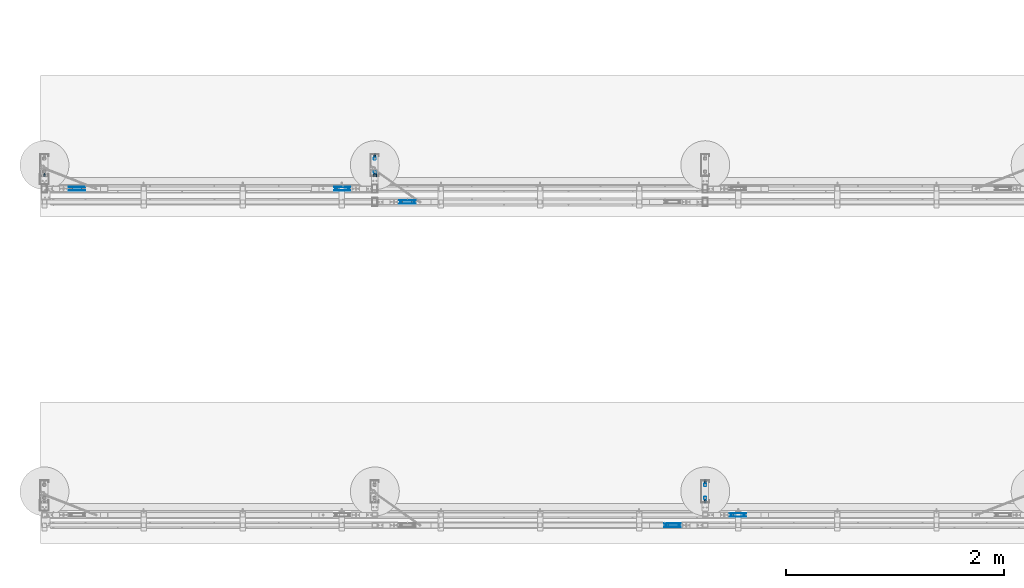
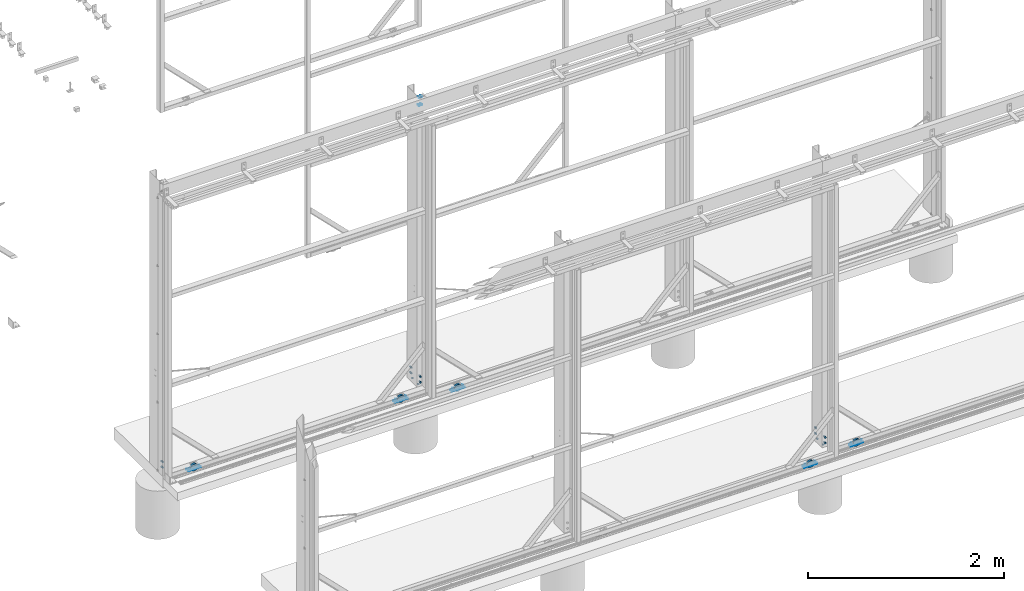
# One storey, part 18 of 91: 15 discrete accessories, 12 mechanical fasteners, 11 elements without a shape of their own.
"""IFC2X3 building model written with IfcOpenShell, lengths in millimetres."""

from ifc_helpers import new_model, si_unit, frame, frame_2d, origin_with_axes, origin_2d_with_axis, place, context, subcontext, project, spatial, polyline, circle_curve, parameter, trimmed, segment, composite_curve, circle, outline, extrude, source, transform, mapped, material, type_object, element, aggregate, save


model = new_model("IFC2X3")

# Units and contexts
model_context = context("Model", 3, precision=1e-05, world=origin_with_axes())
body_context = subcontext(model_context, "Body", "Model", "MODEL_VIEW")
ifc_project = project(units=[si_unit("LENGTHUNIT", "METRE", prefix="MILLI"), si_unit("AREAUNIT", "SQUARE_METRE"), si_unit("VOLUMEUNIT", "CUBIC_METRE"), si_unit("MASSUNIT", "GRAM", prefix="KILO"), si_unit("TIMEUNIT", "SECOND"), si_unit("PLANEANGLEUNIT", "RADIAN"), si_unit("SOLIDANGLEUNIT", "STERADIAN"), si_unit("THERMODYNAMICTEMPERATUREUNIT", "DEGREE_CELSIUS"), si_unit("LUMINOUSINTENSITYUNIT", "LUMEN")], contexts=[model_context])

# Site, building, storey
site_placement = place(None, origin_with_axes())
site = spatial("IfcSite", under=ifc_project, at=site_placement, Name="Undefined", CompositionType="ELEMENT")
building_placement = place(site_placement, origin_with_axes())
building = spatial("IfcBuilding", under=site, at=building_placement, Name="Undefined", CompositionType="ELEMENT")
storey_placement = place(building_placement, origin_with_axes())
storey = spatial("IfcBuildingStorey", under=building, at=storey_placement, Name="Undefined", CompositionType="ELEMENT", Elevation=0.0)

# Assembly, discrete accessories
assembly_1_placement = place(storey_placement, origin_with_axes())
assembly_1 = element("IfcElementAssembly", 1, at=assembly_1_placement, inside=storey, Name="PLATE", AssemblyPlace="NOTDEFINED", PredefinedType="RIGID_FRAME")
ifc_material_1 = material(Name="STEEL/250")
discrete_accessory_type_1 = type_object("IfcDiscreteAccessoryType", Name="PLATE")
discrete_accessory_1_placement = place(assembly_1_placement, frame((-113533.34, 87574.65, -19.0), z_axis=(0.0, -1.0, 0.0), x_axis=(0.0, 0.0, -1.0)))
discrete_accessory_1 = element("IfcDiscreteAccessory", 2, at=discrete_accessory_1_placement, type_object=discrete_accessory_type_1, material=ifc_material_1, Name="PLATE", ObjectType="PLT2*10", context=body_context, shape_type="SweptSolid", body=[
    extrude(outline(polyline([(0.0, 0.0), (10.0, 0.0), (10.0, 150.0), (0.0, 150.0), (0.0, 0.0)])), frame((0.0, 0.0, -1.0), z_axis=(0.0, 0.0, 1.0), x_axis=(1.0, 0.0, 0.0)), (0.0, 0.0, 1.0), 2.0),
])
discrete_accessory_2_placement = place(assembly_1_placement, frame((-113533.34, 87605.65, -19.0), z_axis=(0.0, -1.0, 0.0), x_axis=(0.0, 0.0, -1.0)))
discrete_accessory_2 = element("IfcDiscreteAccessory", 3, at=discrete_accessory_2_placement, type_object=discrete_accessory_type_1, material=ifc_material_1, Name="PLATE", ObjectType="PLT2*10", context=body_context, shape_type="SweptSolid", body=[
    extrude(outline(polyline([(0.0, 0.0), (10.0, 0.0), (10.0, 150.0), (0.0, 150.0), (0.0, 0.0)])), frame((0.0, 0.0, -1.0), z_axis=(0.0, 0.0, 1.0), x_axis=(1.0, 0.0, 0.0)), (0.0, 0.0, 1.0), 2.0),
])

assembly_2_placement = place(storey_placement, origin_with_axes())
assembly_2 = element("IfcElementAssembly", 4, at=assembly_2_placement, inside=storey, Name="PLATE", AssemblyPlace="NOTDEFINED", PredefinedType="RIGID_FRAME")
discrete_accessory_3_placement = place(assembly_2_placement, frame((-114133.34, 87696.65, -19.0), z_axis=(0.0, -1.0, 0.0), x_axis=(0.0, 0.0, -1.0)))
discrete_accessory_3 = element("IfcDiscreteAccessory", 5, at=discrete_accessory_3_placement, type_object=discrete_accessory_type_1, material=ifc_material_1, Name="PLATE", ObjectType="PLT2*10", context=body_context, shape_type="SweptSolid", body=[
    extrude(outline(polyline([(0.0, 0.0), (10.0, 0.0), (10.0, 150.0), (0.0, 150.0), (0.0, 0.0)])), frame((0.0, 0.0, -1.0), z_axis=(0.0, 0.0, 1.0), x_axis=(1.0, 0.0, 0.0)), (0.0, 0.0, 1.0), 2.0),
])
discrete_accessory_4_placement = place(assembly_2_placement, frame((-114133.34, 87727.65, -19.0), z_axis=(0.0, -1.0, 0.0), x_axis=(0.0, 0.0, -1.0)))
discrete_accessory_4 = element("IfcDiscreteAccessory", 6, at=discrete_accessory_4_placement, type_object=discrete_accessory_type_1, material=ifc_material_1, Name="PLATE", ObjectType="PLT2*10", context=body_context, shape_type="SweptSolid", body=[
    extrude(outline(polyline([(0.0, 0.0), (10.0, 0.0), (10.0, 150.0), (0.0, 150.0), (0.0, 0.0)])), frame((0.0, 0.0, -1.0), z_axis=(0.0, 0.0, 1.0), x_axis=(1.0, 0.0, 0.0)), (0.0, 0.0, 1.0), 2.0),
])

assembly_3_placement = place(storey_placement, origin_with_axes())
assembly_3 = element("IfcElementAssembly", 7, at=assembly_3_placement, inside=storey, Name="PLATE", AssemblyPlace="NOTDEFINED", PredefinedType="RIGID_FRAME")
discrete_accessory_5_placement = place(assembly_3_placement, frame((-116570.84, 87696.65, -19.0), z_axis=(0.0, -1.0, 0.0), x_axis=(0.0, 0.0, -1.0)))
discrete_accessory_5 = element("IfcDiscreteAccessory", 8, at=discrete_accessory_5_placement, type_object=discrete_accessory_type_1, material=ifc_material_1, Name="PLATE", ObjectType="PLT2*10", context=body_context, shape_type="SweptSolid", body=[
    extrude(outline(polyline([(0.0, 0.0), (10.0, 0.0), (10.0, 150.0), (0.0, 150.0), (0.0, 0.0)])), frame((0.0, 0.0, -1.0), z_axis=(0.0, 0.0, 1.0), x_axis=(1.0, 0.0, 0.0)), (0.0, 0.0, 1.0), 2.0),
])
discrete_accessory_6_placement = place(assembly_3_placement, frame((-116570.84, 87727.65, -19.0), z_axis=(0.0, -1.0, 0.0), x_axis=(0.0, 0.0, -1.0)))
discrete_accessory_6 = element("IfcDiscreteAccessory", 9, at=discrete_accessory_6_placement, type_object=discrete_accessory_type_1, material=ifc_material_1, Name="PLATE", ObjectType="PLT2*10", context=body_context, shape_type="SweptSolid", body=[
    extrude(outline(polyline([(0.0, 0.0), (10.0, 0.0), (10.0, 150.0), (0.0, 150.0), (0.0, 0.0)])), frame((0.0, 0.0, -1.0), z_axis=(0.0, 0.0, 1.0), x_axis=(1.0, 0.0, 0.0)), (0.0, 0.0, 1.0), 2.0),
])

assembly_4_placement = place(storey_placement, origin_with_axes())
assembly_4 = element("IfcElementAssembly", 10, at=assembly_4_placement, inside=storey, Name="PLATE", AssemblyPlace="NOTDEFINED", PredefinedType="RIGID_FRAME")
discrete_accessory_7_placement = place(assembly_4_placement, frame((-110495.84, 84696.65, -19.0), z_axis=(0.0, -1.0, 0.0), x_axis=(0.0, 0.0, -1.0)))
discrete_accessory_7 = element("IfcDiscreteAccessory", 11, at=discrete_accessory_7_placement, type_object=discrete_accessory_type_1, material=ifc_material_1, Name="PLATE", ObjectType="PLT2*10", context=body_context, shape_type="SweptSolid", body=[
    extrude(outline(polyline([(0.0, 0.0), (10.0, 0.0), (10.0, 150.0), (0.0, 150.0), (0.0, 0.0)])), frame((0.0, 0.0, -1.0), z_axis=(0.0, 0.0, 1.0), x_axis=(1.0, 0.0, 0.0)), (0.0, 0.0, 1.0), 2.0),
])
discrete_accessory_8_placement = place(assembly_4_placement, frame((-110495.84, 84727.65, -19.0), z_axis=(0.0, -1.0, 0.0), x_axis=(0.0, 0.0, -1.0)))
discrete_accessory_8 = element("IfcDiscreteAccessory", 12, at=discrete_accessory_8_placement, type_object=discrete_accessory_type_1, material=ifc_material_1, Name="PLATE", ObjectType="PLT2*10", context=body_context, shape_type="SweptSolid", body=[
    extrude(outline(polyline([(0.0, 0.0), (10.0, 0.0), (10.0, 150.0), (0.0, 150.0), (0.0, 0.0)])), frame((0.0, 0.0, -1.0), z_axis=(0.0, 0.0, 1.0), x_axis=(1.0, 0.0, 0.0)), (0.0, 0.0, 1.0), 2.0),
])

assembly_5_placement = place(storey_placement, origin_with_axes())
assembly_5 = element("IfcElementAssembly", 13, at=assembly_5_placement, inside=storey, Name="PLATE", AssemblyPlace="NOTDEFINED", PredefinedType="RIGID_FRAME")
discrete_accessory_9_placement = place(assembly_5_placement, frame((-111095.84, 84602.65, -19.0), z_axis=(0.0, -1.0, 0.0), x_axis=(0.0, 0.0, -1.0)))
discrete_accessory_9 = element("IfcDiscreteAccessory", 14, at=discrete_accessory_9_placement, type_object=discrete_accessory_type_1, material=ifc_material_1, Name="PLATE", ObjectType="PLT2*10", context=body_context, shape_type="SweptSolid", body=[
    extrude(outline(polyline([(0.0, 0.0), (10.0, 0.0), (10.0, 150.0), (0.0, 150.0), (0.0, 0.0)])), frame((0.0, 0.0, -1.0), z_axis=(0.0, 0.0, 1.0), x_axis=(1.0, 0.0, 0.0)), (0.0, 0.0, 1.0), 2.0),
])
discrete_accessory_10_placement = place(assembly_5_placement, frame((-111095.84, 84633.65, -19.0), z_axis=(0.0, -1.0, 0.0), x_axis=(0.0, 0.0, -1.0)))
discrete_accessory_10 = element("IfcDiscreteAccessory", 15, at=discrete_accessory_10_placement, type_object=discrete_accessory_type_1, material=ifc_material_1, Name="PLATE", ObjectType="PLT2*10", context=body_context, shape_type="SweptSolid", body=[
    extrude(outline(polyline([(0.0, 0.0), (10.0, 0.0), (10.0, 150.0), (0.0, 150.0), (0.0, 0.0)])), frame((0.0, 0.0, -1.0), z_axis=(0.0, 0.0, 1.0), x_axis=(1.0, 0.0, 0.0)), (0.0, 0.0, 1.0), 2.0),
])

# Mechanical fastener
ifc_material_2 = material(Name="TEK_11TPIM")
discrete_accessory_type_2 = type_object("IfcDiscreteAccessoryType", Name="Bolt assembly")
shared_shape_1 = source(origin_with_axes(), body_context, "Body", "SweptSolid", [
    extrude(circle(Radius=3.0, at=origin_2d_with_axis()), frame((0.0, 0.0, 0.0), z_axis=(0.0, 1.0, 0.0), x_axis=(1.0, 0.0, 0.0)), (0.0, 0.0, 1.0), 2.1),
    extrude(outline(polyline([(4.61880215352, 0.0), (2.30940107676, 4.00000000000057), (-2.30940107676, 4.00000000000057), (-4.61880215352, 0.0), (-2.30940107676, -4.00000000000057), (2.30940107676, -4.00000000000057), (4.61880215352, 0.0)])), frame((0.0, -5.10000000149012, 0.0), z_axis=(0.0, 1.0, 0.0), x_axis=(1.0, 0.0, 0.0)), (0.0, 0.0, 1.0), 5.0),
    extrude(circle(Radius=3.0, at=origin_2d_with_axis()), frame((0.0, -0.100000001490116, 0.0), z_axis=(0.0, 1.0, 0.0), x_axis=(1.0, 0.0, 0.0)), (0.0, 0.0, 1.0), 25.0),
    extrude(circle(Radius=3.0, at=origin_2d_with_axis()), frame((0.0, -0.100000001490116, 0.0), z_axis=(0.0, 1.0, 0.0), x_axis=(1.0, 0.0, 0.0)), (0.0, 0.0, 1.0), 0.1),
    extrude(circle(Radius=3.0, at=origin_2d_with_axis()), frame((0.0, 2.00000000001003, 0.0), z_axis=(0.0, 1.0, 0.0), x_axis=(1.0, 0.0, 0.0)), (0.0, 0.0, 1.0), 0.1),
    extrude(outline(polyline([(3.46410161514, 0.0), (1.73205080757, 3.00000000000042), (-1.73205080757, 3.00000000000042), (-3.46410161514, 0.0), (-1.73205080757, -3.00000000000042), (1.73205080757, -3.00000000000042), (3.46410161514, 0.0)])), frame((0.0, 2.10000000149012, 0.0), z_axis=(0.0, 1.0, 0.0), x_axis=(1.0, 0.0, 0.0)), (0.0, 0.0, 1.0), 0.1),
])
mechanical_fastener_1_placement = place(assembly_1_placement, frame((-113398.34, 87590.15, -19.0), z_axis=(0.0, 1.0, 0.0), x_axis=(-1.0, 0.0, 0.0)))
mechanical_fastener_1 = element("IfcMechanicalFastener", 16, at=mechanical_fastener_1_placement, type_object=discrete_accessory_type_2, material=ifc_material_2, Name="Bolt assembly", NominalDiameter=6.0, NominalLength=25.0, context=body_context, shape_type="MappedRepresentation", body=[
    mapped(shared_shape_1, transform((0.0, 0.0, 0.0))),
    mapped(shared_shape_1, transform((120.0, 0.0, 0.0))),
])

mechanical_fastener_2_placement = place(assembly_2_placement, frame((-113998.34, 87712.15, -19.0), z_axis=(0.0, 1.0, 0.0), x_axis=(-1.0, 0.0, 0.0)))
mechanical_fastener_2 = element("IfcMechanicalFastener", 17, at=mechanical_fastener_2_placement, type_object=discrete_accessory_type_2, material=ifc_material_2, Name="Bolt assembly", NominalDiameter=6.0, NominalLength=25.0, context=body_context, shape_type="MappedRepresentation", body=[
    mapped(shared_shape_1, transform((0.0, 0.0, 0.0))),
    mapped(shared_shape_1, transform((120.0, 0.0, 0.0))),
])

mechanical_fastener_3_placement = place(assembly_4_placement, frame((-110360.84, 84712.15, -19.0), z_axis=(0.0, 1.0, 0.0), x_axis=(-1.0, 0.0, 0.0)))
mechanical_fastener_3 = element("IfcMechanicalFastener", 18, at=mechanical_fastener_3_placement, type_object=discrete_accessory_type_2, material=ifc_material_2, Name="Bolt assembly", NominalDiameter=6.0, NominalLength=25.0, context=body_context, shape_type="MappedRepresentation", body=[
    mapped(shared_shape_1, transform((0.0, 0.0, 0.0))),
    mapped(shared_shape_1, transform((120.0, 0.0, 0.0))),
])

mechanical_fastener_4_placement = place(assembly_5_placement, frame((-110960.84, 84618.15, -19.0), z_axis=(0.0, 1.0, 0.0), x_axis=(-1.0, 0.0, 0.0)))
mechanical_fastener_4 = element("IfcMechanicalFastener", 19, at=mechanical_fastener_4_placement, type_object=discrete_accessory_type_2, material=ifc_material_2, Name="Bolt assembly", NominalDiameter=6.0, NominalLength=25.0, context=body_context, shape_type="MappedRepresentation", body=[
    mapped(shared_shape_1, transform((0.0, 0.0, 0.0))),
    mapped(shared_shape_1, transform((120.0, 0.0, 0.0))),
])

# Assembly, mechanical fastener
assembly_6_placement = place(storey_placement, origin_with_axes())
assembly_6 = element("IfcElementAssembly", 20, at=assembly_6_placement, inside=storey, Name="BASEPLATE", AssemblyPlace="NOTDEFINED", PredefinedType="RIGID_FRAME")
ifc_material_3 = material(Name="8.8S")
shared_shape_2 = source(origin_with_axes(), body_context, "Body", "SweptSolid", [
    extrude(circle(Radius=10.0, at=origin_2d_with_axis()), frame((0.0, -5.0, 0.0), z_axis=(0.0, 1.0, 0.0), x_axis=(1.0, 0.0, 0.0)), (0.0, 0.0, 1.0), 6.1),
])
mechanical_fastener_5_placement = place(assembly_6_placement, frame((-113758.34, 87868.65, -31.0), z_axis=(-1.0, 0.0, 0.0), x_axis=(0.0, 1.0, 0.0)))
mechanical_fastener_5 = element("IfcMechanicalFastener", 21, at=mechanical_fastener_5_placement, type_object=discrete_accessory_type_2, material=ifc_material_3, Name="Bolt assembly", NominalDiameter=20.0, NominalLength=16.0, context=body_context, shape_type="MappedRepresentation", body=[
    mapped(shared_shape_2, transform((0.0, 0.0, 0.0))),
    mapped(shared_shape_2, transform((120.0, 0.0, 0.0))),
])
aggregate(assembly_6, [mechanical_fastener_5])

assembly_7_placement = place(storey_placement, origin_with_axes())
assembly_7 = element("IfcElementAssembly", 22, at=assembly_7_placement, inside=storey, Name="BASEPLATE", AssemblyPlace="NOTDEFINED", PredefinedType="RIGID_FRAME")
mechanical_fastener_6_placement = place(assembly_7_placement, frame((-110720.84, 84868.65, -31.0), z_axis=(-1.0, 0.0, 0.0), x_axis=(0.0, 1.0, 0.0)))
mechanical_fastener_6 = element("IfcMechanicalFastener", 23, at=mechanical_fastener_6_placement, type_object=discrete_accessory_type_2, material=ifc_material_3, Name="Bolt assembly", NominalDiameter=20.0, NominalLength=16.0, context=body_context, shape_type="MappedRepresentation", body=[
    mapped(shared_shape_2, transform((0.0, 0.0, 0.0))),
    mapped(shared_shape_2, transform((120.0, 0.0, 0.0))),
])
aggregate(assembly_7, [mechanical_fastener_6])

assembly_8_placement = place(storey_placement, origin_with_axes())
assembly_8 = element("IfcElementAssembly", 24, at=assembly_8_placement, inside=storey, Name="FASCIA BRACKET", AssemblyPlace="NOTDEFINED", PredefinedType="RIGID_FRAME")
ifc_material_4 = material(Name="TEK_16TPIM")
shared_shape_3 = source(origin_with_axes(), body_context, "Body", "SweptSolid", [
    extrude(circle(Radius=3.5, at=origin_2d_with_axis()), frame((0.0, -1.60000000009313, 0.0), z_axis=(0.0, 1.0, 0.0), x_axis=(1.0, 0.0, 0.0)), (0.0, 0.0, 1.0), 1.7),
    extrude(outline(polyline([(4.04145188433, 0.0), (2.020725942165, 3.5000000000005), (-2.020725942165, 3.5000000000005), (-4.04145188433, 0.0), (-2.020725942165, -3.5000000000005), (2.020725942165, -3.5000000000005), (4.04145188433, 0.0)])), frame((0.0, -6.70000000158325, 0.0), z_axis=(0.0, 1.0, 0.0), x_axis=(1.0, 0.0, 0.0)), (0.0, 0.0, 1.0), 5.0),
    extrude(circle(Radius=2.5, at=origin_2d_with_axis()), frame((0.0, -1.70000000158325, 0.0), z_axis=(0.0, 1.0, 0.0), x_axis=(1.0, 0.0, 0.0)), (0.0, 0.0, 1.0), 25.0),
    extrude(circle(Radius=2.5, at=origin_2d_with_axis()), frame((0.0, -1.70000000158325, 0.0), z_axis=(0.0, 1.0, 0.0), x_axis=(1.0, 0.0, 0.0)), (0.0, 0.0, 1.0), 0.1),
    extrude(circle(Radius=2.5, at=origin_2d_with_axis()), frame((0.0, 0.0, 0.0), z_axis=(0.0, 1.0, 0.0), x_axis=(1.0, 0.0, 0.0)), (0.0, 0.0, 1.0), 0.1),
    extrude(outline(polyline([(2.88675134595, 0.0), (1.443375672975, 2.50000000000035), (-1.443375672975, 2.50000000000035), (-2.88675134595, 0.0), (-1.443375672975, -2.50000000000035), (1.443375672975, -2.50000000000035), (2.88675134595, 0.0)])), frame((0.0, 0.1, 0.0), z_axis=(0.0, 1.0, 0.0), x_axis=(1.0, 0.0, 0.0)), (0.0, 0.0, 1.0), 0.1),
])
mechanical_fastener_7_placement = place(assembly_8_placement, frame((-113758.339999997, 87827.1514572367, 3570.01721743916), z_axis=(1.0, 0.0, 0.0), x_axis=(0.0, 0.0, -1.0)))
mechanical_fastener_7 = element("IfcMechanicalFastener", 25, at=mechanical_fastener_7_placement, type_object=discrete_accessory_type_2, material=ifc_material_4, Name="Bolt assembly", NominalDiameter=5.0, NominalLength=25.0, context=body_context, shape_type="MappedRepresentation", body=[
    mapped(shared_shape_3, transform((0.0, 0.0, -15.0))),
    mapped(shared_shape_3, transform((100.0, 0.0, -15.0))),
    mapped(shared_shape_3, transform((0.0, 0.0, 15.0))),
    mapped(shared_shape_3, transform((100.0, 0.0, 15.0))),
])
aggregate(assembly_8, [mechanical_fastener_7])

# Assembly, mechanical fasteners
assembly_9_placement = place(storey_placement, origin_with_axes())
assembly_9 = element("IfcElementAssembly", 26, at=assembly_9_placement, inside=storey, Name="COLUMN", AssemblyPlace="NOTDEFINED", PredefinedType="RIGID_FRAME")
shared_shape_4 = source(origin_with_axes(), body_context, "Body", "SweptSolid", [
    extrude(circle(Radius=7.0, at=origin_2d_with_axis()), frame((0.0, 4.79999999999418, 0.0), z_axis=(0.0, 1.0, 0.0), x_axis=(1.0, 0.0, 0.0)), (0.0, 0.0, 1.0), 6.1),
    extrude(outline(composite_curve([segment(polyline([(-4.0, 9.0), (4.0, 9.0)]), True, "CONTINUOUS"), segment(trimmed(circle_curve(frame_2d((4.0, 2.0), x_axis=(0.0, 1.0)), 7.0), [parameter(0.0)], [parameter(4.71238898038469)], False, "PARAMETER"), True, "CONTINUOUS"), segment(polyline([(11.0, 2.0), (11.0, -2.0)]), True, "CONTINUOUS"), segment(trimmed(circle_curve(frame_2d((4.0, -2.0), x_axis=(1.0, 0.0)), 7.0), [parameter(0.0)], [parameter(4.71238898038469)], False, "PARAMETER"), True, "CONTINUOUS"), segment(polyline([(4.0, -9.0), (-4.0, -9.0)]), True, "CONTINUOUS"), segment(trimmed(circle_curve(frame_2d((-4.0, -2.0), x_axis=(0.0, -1.0)), 7.0), [parameter(0.0)], [parameter(4.71238898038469)], False, "PARAMETER"), True, "CONTINUOUS"), segment(polyline([(-11.0, -2.0), (-11.0, 2.0)]), True, "CONTINUOUS"), segment(trimmed(circle_curve(frame_2d((-4.0, 2.0), x_axis=(-1.0, 0.0)), 7.0), [parameter(0.0)], [parameter(4.71238898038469)], False, "PARAMETER"), True, "DISCONTINUOUS")], self_intersect=False)), frame((0.0, 3.6, 0.0), z_axis=(0.0, 1.0, 0.0), x_axis=(1.0, 0.0, 0.0)), (0.0, 0.0, 1.0), 1.9),
    extrude(outline(polyline([(10.96965511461, 0.0), (5.484827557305, 9.50000000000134), (-5.484827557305, 9.50000000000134), (-10.96965511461, 0.0), (-5.484827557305, -9.50000000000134), (5.484827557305, -9.50000000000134), (10.96965511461, 0.0)])), frame((0.0, -4.5, 0.0), z_axis=(0.0, 1.0, 0.0), x_axis=(1.0, 0.0, 0.0)), (0.0, 0.0, 1.0), 8.0),
    extrude(circle(Radius=6.0, at=origin_2d_with_axis()), frame((0.0, 3.5, 0.0), z_axis=(0.0, 1.0, 0.0), x_axis=(1.0, 0.0, 0.0)), (0.0, 0.0, 1.0), 30.0),
    extrude(circle(Radius=12.0, at=origin_2d_with_axis()), frame((0.0, 10.9000000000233, 0.0), z_axis=(0.0, 1.0, 0.0), x_axis=(1.0, 0.0, 0.0)), (0.0, 0.0, 1.0), 3.1),
    extrude(outline(polyline([(12.12435565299, 0.0), (6.062177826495, 10.5000000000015), (-6.062177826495, 10.5000000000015), (-12.12435565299, 0.0), (-6.062177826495, -10.5000000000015), (6.062177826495, -10.5000000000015), (12.12435565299, 0.0)])), frame((0.0, 13.9999999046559, 0.0), z_axis=(0.0, 1.0, 0.0), x_axis=(1.0, 0.0, 0.0)), (0.0, 0.0, 1.0), 12.0),
])
mechanical_fastener_8_placement = place(assembly_9_placement, frame((-113758.34, 88033.65, 18.0), z_axis=(1.0, 0.0, 0.0), x_axis=(0.0, 0.0, 1.0)))
mechanical_fastener_8 = element("IfcMechanicalFastener", 27, at=mechanical_fastener_8_placement, type_object=discrete_accessory_type_2, material=ifc_material_3, Name="Bolt assembly", NominalDiameter=12.0, NominalLength=30.0, context=body_context, shape_type="MappedRepresentation", body=[
    mapped(shared_shape_4, transform((0.0, 0.0, 0.0))),
    mapped(shared_shape_4, transform((70.0, 0.0, 0.0))),
])
shared_shape_5 = source(origin_with_axes(), body_context, "Body", "SweptSolid", [
    extrude(circle(Radius=7.0, at=origin_2d_with_axis()), frame((0.0, 4.79999999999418, 0.0), z_axis=(0.0, 1.0, 0.0), x_axis=(1.0, 0.0, 0.0)), (0.0, 0.0, 1.0), 6.1),
    extrude(outline(composite_curve([segment(polyline([(-4.0, 9.0), (4.0, 9.0)]), True, "CONTINUOUS"), segment(trimmed(circle_curve(frame_2d((4.0, 2.0), x_axis=(0.0, 1.0)), 7.0), [parameter(0.0)], [parameter(4.71238898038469)], False, "PARAMETER"), True, "CONTINUOUS"), segment(polyline([(11.0, 2.0), (11.0, -2.0)]), True, "CONTINUOUS"), segment(trimmed(circle_curve(frame_2d((4.0, -2.0), x_axis=(1.0, 0.0)), 7.0), [parameter(0.0)], [parameter(4.71238898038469)], False, "PARAMETER"), True, "CONTINUOUS"), segment(polyline([(4.0, -9.0), (-4.0, -9.0)]), True, "CONTINUOUS"), segment(trimmed(circle_curve(frame_2d((-4.0, -2.0), x_axis=(0.0, -1.0)), 7.0), [parameter(0.0)], [parameter(4.71238898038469)], False, "PARAMETER"), True, "CONTINUOUS"), segment(polyline([(-11.0, -2.0), (-11.0, 2.0)]), True, "CONTINUOUS"), segment(trimmed(circle_curve(frame_2d((-4.0, 2.0), x_axis=(-1.0, 0.0)), 7.0), [parameter(0.0)], [parameter(4.71238898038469)], False, "PARAMETER"), True, "DISCONTINUOUS")], self_intersect=False)), frame((0.0, 3.6, 0.0), z_axis=(0.0, 1.0, 0.0), x_axis=(1.0, 0.0, 0.0)), (0.0, 0.0, 1.0), 1.9),
    extrude(outline(polyline([(10.96965511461, 0.0), (5.484827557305, 9.50000000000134), (-5.484827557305, 9.50000000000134), (-10.96965511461, 0.0), (-5.484827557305, -9.50000000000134), (5.484827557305, -9.50000000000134), (10.96965511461, 0.0)])), frame((0.0, -4.5, 0.0), z_axis=(0.0, 1.0, 0.0), x_axis=(1.0, 0.0, 0.0)), (0.0, 0.0, 1.0), 8.0),
    extrude(circle(Radius=6.0, at=origin_2d_with_axis()), frame((0.0, 3.5, 0.0), z_axis=(0.0, 1.0, 0.0), x_axis=(1.0, 0.0, 0.0)), (0.0, 0.0, 1.0), 30.0),
    extrude(circle(Radius=12.0, at=origin_2d_with_axis()), frame((0.0, 10.9000000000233, 0.0), z_axis=(0.0, 1.0, 0.0), x_axis=(1.0, 0.0, 0.0)), (0.0, 0.0, 1.0), 3.1),
    extrude(outline(polyline([(12.12435565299, 0.0), (6.062177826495, 10.5000000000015), (-6.062177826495, 10.5000000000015), (-12.12435565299, 0.0), (-6.062177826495, -10.5000000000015), (6.062177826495, -10.5000000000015), (12.12435565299, 0.0)])), frame((0.0, 13.9999999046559, 0.0), z_axis=(0.0, 1.0, 0.0), x_axis=(1.0, 0.0, 0.0)), (0.0, 0.0, 1.0), 12.0),
])
mechanical_fastener_9_placement = place(assembly_9_placement, frame((-113758.34, 87823.65, 18.0), z_axis=(-1.0, 0.0, 0.0), x_axis=(0.0, 0.0, 1.0)))
mechanical_fastener_9 = element("IfcMechanicalFastener", 28, at=mechanical_fastener_9_placement, type_object=discrete_accessory_type_2, material=ifc_material_3, Name="Bolt assembly", NominalDiameter=12.0, NominalLength=30.0, context=body_context, shape_type="MappedRepresentation", body=[
    mapped(shared_shape_5, transform((0.0, 0.0, 0.0))),
    mapped(shared_shape_5, transform((70.0, 0.0, 0.0))),
])
aggregate(assembly_9, [mechanical_fastener_8, mechanical_fastener_9])

# Assembly, mechanical fastener
assembly_10_placement = place(storey_placement, origin_with_axes())
assembly_10 = element("IfcElementAssembly", 29, at=assembly_10_placement, inside=storey, Name="COLUMN", AssemblyPlace="NOTDEFINED", PredefinedType="RIGID_FRAME")
shared_shape_6 = source(origin_with_axes(), body_context, "Body", "SweptSolid", [
    extrude(circle(Radius=7.0, at=origin_2d_with_axis()), frame((0.0, 4.79999999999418, 0.0), z_axis=(0.0, 1.0, 0.0), x_axis=(1.0, 0.0, 0.0)), (0.0, 0.0, 1.0), 6.1),
    extrude(outline(composite_curve([segment(polyline([(-4.0, 9.0), (4.0, 9.0)]), True, "CONTINUOUS"), segment(trimmed(circle_curve(frame_2d((4.0, 2.0), x_axis=(0.0, 1.0)), 7.0), [parameter(0.0)], [parameter(4.71238898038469)], False, "PARAMETER"), True, "CONTINUOUS"), segment(polyline([(11.0, 2.0), (11.0, -2.0)]), True, "CONTINUOUS"), segment(trimmed(circle_curve(frame_2d((4.0, -2.0), x_axis=(1.0, 0.0)), 7.0), [parameter(0.0)], [parameter(4.71238898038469)], False, "PARAMETER"), True, "CONTINUOUS"), segment(polyline([(4.0, -9.0), (-4.0, -9.0)]), True, "CONTINUOUS"), segment(trimmed(circle_curve(frame_2d((-4.0, -2.0), x_axis=(0.0, -1.0)), 7.0), [parameter(0.0)], [parameter(4.71238898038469)], False, "PARAMETER"), True, "CONTINUOUS"), segment(polyline([(-11.0, -2.0), (-11.0, 2.0)]), True, "CONTINUOUS"), segment(trimmed(circle_curve(frame_2d((-4.0, 2.0), x_axis=(-1.0, 0.0)), 7.0), [parameter(0.0)], [parameter(4.71238898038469)], False, "PARAMETER"), True, "DISCONTINUOUS")], self_intersect=False)), frame((0.0, 3.6, 0.0), z_axis=(0.0, 1.0, 0.0), x_axis=(1.0, 0.0, 0.0)), (0.0, 0.0, 1.0), 1.9),
    extrude(outline(polyline([(10.96965511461, 0.0), (5.484827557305, 9.50000000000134), (-5.484827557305, 9.50000000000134), (-10.96965511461, 0.0), (-5.484827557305, -9.50000000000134), (5.484827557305, -9.50000000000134), (10.96965511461, 0.0)])), frame((0.0, -4.5, 0.0), z_axis=(0.0, 1.0, 0.0), x_axis=(1.0, 0.0, 0.0)), (0.0, 0.0, 1.0), 8.0),
    extrude(circle(Radius=6.0, at=origin_2d_with_axis()), frame((0.0, 3.5, 0.0), z_axis=(0.0, 1.0, 0.0), x_axis=(1.0, 0.0, 0.0)), (0.0, 0.0, 1.0), 30.0),
    extrude(circle(Radius=12.0, at=origin_2d_with_axis()), frame((0.0, 10.9000000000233, 0.0), z_axis=(0.0, 1.0, 0.0), x_axis=(1.0, 0.0, 0.0)), (0.0, 0.0, 1.0), 3.1),
    extrude(outline(polyline([(12.12435565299, 0.0), (6.062177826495, 10.5000000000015), (-6.062177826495, 10.5000000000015), (-12.12435565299, 0.0), (-6.062177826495, -10.5000000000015), (6.062177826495, -10.5000000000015), (12.12435565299, 0.0)])), frame((0.0, 13.9999999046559, 0.0), z_axis=(0.0, 1.0, 0.0), x_axis=(1.0, 0.0, 0.0)), (0.0, 0.0, 1.0), 12.0),
])
mechanical_fastener_10_placement = place(assembly_10_placement, frame((-116795.84, 87823.65, 18.0), z_axis=(-1.0, 0.0, 0.0), x_axis=(0.0, 0.0, 1.0)))
mechanical_fastener_10 = element("IfcMechanicalFastener", 30, at=mechanical_fastener_10_placement, type_object=discrete_accessory_type_2, material=ifc_material_3, Name="Bolt assembly", NominalDiameter=12.0, NominalLength=30.0, context=body_context, shape_type="MappedRepresentation", body=[
    mapped(shared_shape_6, transform((0.0, 0.0, 0.0))),
    mapped(shared_shape_6, transform((70.0, 0.0, 0.0))),
])
aggregate(assembly_10, [mechanical_fastener_10])

# Discrete accessory
discrete_accessory_type_3 = type_object("IfcDiscreteAccessoryType", Name="DOOR ROLLER")
discrete_accessory_11_placement = place(assembly_1_placement, frame((-113458.34, 87602.6509765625, -10.0), z_axis=(1.0, 0.0, 0.0), x_axis=(0.0, -1.0, 0.0)))
discrete_accessory_11 = element("IfcDiscreteAccessory", 31, at=discrete_accessory_11_placement, type_object=discrete_accessory_type_3, material=ifc_material_1, Name="DOOR ROLLER", ObjectType="D88", context=body_context, shape_type="SweptSolid", body=[
    extrude(circle(Radius=44.0, at=origin_2d_with_axis()), frame((25.0, 0.0, 0.0), z_axis=(-1.0, 0.0, 0.0), x_axis=(0.0, -1.0, 0.0)), (0.0, 0.0, 1.0), 25.0),
])

aggregate(assembly_1, [mechanical_fastener_1, discrete_accessory_1, discrete_accessory_2, discrete_accessory_11])

discrete_accessory_12_placement = place(assembly_2_placement, frame((-114058.34, 87724.6509765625, -10.0), z_axis=(1.0, 0.0, 0.0), x_axis=(0.0, -1.0, 0.0)))
discrete_accessory_12 = element("IfcDiscreteAccessory", 32, at=discrete_accessory_12_placement, type_object=discrete_accessory_type_3, material=ifc_material_1, Name="DOOR ROLLER", ObjectType="D88", context=body_context, shape_type="SweptSolid", body=[
    extrude(circle(Radius=44.0, at=origin_2d_with_axis()), frame((25.0, 0.0, 0.0), z_axis=(-1.0, 0.0, 0.0), x_axis=(0.0, -1.0, 0.0)), (0.0, 0.0, 1.0), 25.0),
])

aggregate(assembly_2, [mechanical_fastener_2, discrete_accessory_3, discrete_accessory_4, discrete_accessory_12])

discrete_accessory_13_placement = place(assembly_3_placement, frame((-116495.84, 87724.6509765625, -10.0), z_axis=(1.0, 0.0, 0.0), x_axis=(0.0, -1.0, 0.0)))
discrete_accessory_13 = element("IfcDiscreteAccessory", 33, at=discrete_accessory_13_placement, type_object=discrete_accessory_type_3, material=ifc_material_1, Name="DOOR ROLLER", ObjectType="D88", context=body_context, shape_type="SweptSolid", body=[
    extrude(circle(Radius=44.0, at=origin_2d_with_axis()), frame((25.0, 0.0, 0.0), z_axis=(-1.0, 0.0, 0.0), x_axis=(0.0, -1.0, 0.0)), (0.0, 0.0, 1.0), 25.0),
])

aggregate(assembly_3, [discrete_accessory_5, discrete_accessory_6, discrete_accessory_13])

discrete_accessory_14_placement = place(assembly_4_placement, frame((-110420.84, 84724.6509765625, -10.0), z_axis=(1.0, 0.0, 0.0), x_axis=(0.0, -1.0, 0.0)))
discrete_accessory_14 = element("IfcDiscreteAccessory", 34, at=discrete_accessory_14_placement, type_object=discrete_accessory_type_3, material=ifc_material_1, Name="DOOR ROLLER", ObjectType="D88", context=body_context, shape_type="SweptSolid", body=[
    extrude(circle(Radius=44.0, at=origin_2d_with_axis()), frame((25.0, 0.0, 0.0), z_axis=(-1.0, 0.0, 0.0), x_axis=(0.0, -1.0, 0.0)), (0.0, 0.0, 1.0), 25.0),
])

aggregate(assembly_4, [mechanical_fastener_3, discrete_accessory_7, discrete_accessory_8, discrete_accessory_14])

discrete_accessory_15_placement = place(assembly_5_placement, frame((-111020.84, 84630.6509765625, -10.0), z_axis=(1.0, 0.0, 0.0), x_axis=(0.0, -1.0, 0.0)))
discrete_accessory_15 = element("IfcDiscreteAccessory", 35, at=discrete_accessory_15_placement, type_object=discrete_accessory_type_3, material=ifc_material_1, Name="DOOR ROLLER", ObjectType="D88", context=body_context, shape_type="SweptSolid", body=[
    extrude(circle(Radius=44.0, at=origin_2d_with_axis()), frame((25.0, 0.0, 0.0), z_axis=(-1.0, 0.0, 0.0), x_axis=(0.0, -1.0, 0.0)), (0.0, 0.0, 1.0), 25.0),
])

aggregate(assembly_5, [mechanical_fastener_4, discrete_accessory_9, discrete_accessory_10, discrete_accessory_15])

# Assembly, mechanical fasteners
assembly_11_placement = place(storey_placement, origin_with_axes())
assembly_11 = element("IfcElementAssembly", 36, at=assembly_11_placement, inside=storey, Name="COLUMN", AssemblyPlace="NOTDEFINED", PredefinedType="RIGID_FRAME")
shared_shape_7 = source(origin_with_axes(), body_context, "Body", "SweptSolid", [
    extrude(circle(Radius=7.0, at=origin_2d_with_axis()), frame((0.0, 4.79999999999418, 0.0), z_axis=(0.0, 1.0, 0.0), x_axis=(1.0, 0.0, 0.0)), (0.0, 0.0, 1.0), 6.1),
    extrude(outline(composite_curve([segment(polyline([(-4.0, 9.0), (4.0, 9.0)]), True, "CONTINUOUS"), segment(trimmed(circle_curve(frame_2d((4.0, 2.0), x_axis=(0.0, 1.0)), 7.0), [parameter(0.0)], [parameter(4.71238898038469)], False, "PARAMETER"), True, "CONTINUOUS"), segment(polyline([(11.0, 2.0), (11.0, -2.0)]), True, "CONTINUOUS"), segment(trimmed(circle_curve(frame_2d((4.0, -2.0), x_axis=(1.0, 0.0)), 7.0), [parameter(0.0)], [parameter(4.71238898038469)], False, "PARAMETER"), True, "CONTINUOUS"), segment(polyline([(4.0, -9.0), (-4.0, -9.0)]), True, "CONTINUOUS"), segment(trimmed(circle_curve(frame_2d((-4.0, -2.0), x_axis=(0.0, -1.0)), 7.0), [parameter(0.0)], [parameter(4.71238898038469)], False, "PARAMETER"), True, "CONTINUOUS"), segment(polyline([(-11.0, -2.0), (-11.0, 2.0)]), True, "CONTINUOUS"), segment(trimmed(circle_curve(frame_2d((-4.0, 2.0), x_axis=(-1.0, 0.0)), 7.0), [parameter(0.0)], [parameter(4.71238898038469)], False, "PARAMETER"), True, "DISCONTINUOUS")], self_intersect=False)), frame((0.0, 3.6, 0.0), z_axis=(0.0, 1.0, 0.0), x_axis=(1.0, 0.0, 0.0)), (0.0, 0.0, 1.0), 1.9),
    extrude(outline(polyline([(10.96965511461, 0.0), (5.484827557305, 9.50000000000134), (-5.484827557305, 9.50000000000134), (-10.96965511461, 0.0), (-5.484827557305, -9.50000000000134), (5.484827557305, -9.50000000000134), (10.96965511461, 0.0)])), frame((0.0, -4.5, 0.0), z_axis=(0.0, 1.0, 0.0), x_axis=(1.0, 0.0, 0.0)), (0.0, 0.0, 1.0), 8.0),
    extrude(circle(Radius=6.0, at=origin_2d_with_axis()), frame((0.0, 3.5, 0.0), z_axis=(0.0, 1.0, 0.0), x_axis=(1.0, 0.0, 0.0)), (0.0, 0.0, 1.0), 30.0),
    extrude(circle(Radius=12.0, at=origin_2d_with_axis()), frame((0.0, 10.9000000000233, 0.0), z_axis=(0.0, 1.0, 0.0), x_axis=(1.0, 0.0, 0.0)), (0.0, 0.0, 1.0), 3.1),
    extrude(outline(polyline([(12.12435565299, 0.0), (6.062177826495, 10.5000000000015), (-6.062177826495, 10.5000000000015), (-12.12435565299, 0.0), (-6.062177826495, -10.5000000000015), (6.062177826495, -10.5000000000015), (12.12435565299, 0.0)])), frame((0.0, 13.9999999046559, 0.0), z_axis=(0.0, 1.0, 0.0), x_axis=(1.0, 0.0, 0.0)), (0.0, 0.0, 1.0), 12.0),
])
mechanical_fastener_11_placement = place(assembly_11_placement, frame((-110720.84, 84823.65, 18.0), z_axis=(-1.0, 0.0, 0.0), x_axis=(0.0, 0.0, 1.0)))
mechanical_fastener_11 = element("IfcMechanicalFastener", 37, at=mechanical_fastener_11_placement, type_object=discrete_accessory_type_2, material=ifc_material_3, Name="Bolt assembly", NominalDiameter=12.0, NominalLength=30.0, context=body_context, shape_type="MappedRepresentation", body=[
    mapped(shared_shape_7, transform((0.0, 0.0, 0.0))),
    mapped(shared_shape_7, transform((70.0, 0.0, 0.0))),
])
shared_shape_8 = source(origin_with_axes(), body_context, "Body", "SweptSolid", [
    extrude(circle(Radius=7.0, at=origin_2d_with_axis()), frame((0.0, 4.79999999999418, 0.0), z_axis=(0.0, 1.0, 0.0), x_axis=(1.0, 0.0, 0.0)), (0.0, 0.0, 1.0), 6.1),
    extrude(outline(composite_curve([segment(polyline([(-4.0, 9.0), (4.0, 9.0)]), True, "CONTINUOUS"), segment(trimmed(circle_curve(frame_2d((4.0, 2.0), x_axis=(0.0, 1.0)), 7.0), [parameter(0.0)], [parameter(4.71238898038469)], False, "PARAMETER"), True, "CONTINUOUS"), segment(polyline([(11.0, 2.0), (11.0, -2.0)]), True, "CONTINUOUS"), segment(trimmed(circle_curve(frame_2d((4.0, -2.0), x_axis=(1.0, 0.0)), 7.0), [parameter(0.0)], [parameter(4.71238898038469)], False, "PARAMETER"), True, "CONTINUOUS"), segment(polyline([(4.0, -9.0), (-4.0, -9.0)]), True, "CONTINUOUS"), segment(trimmed(circle_curve(frame_2d((-4.0, -2.0), x_axis=(0.0, -1.0)), 7.0), [parameter(0.0)], [parameter(4.71238898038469)], False, "PARAMETER"), True, "CONTINUOUS"), segment(polyline([(-11.0, -2.0), (-11.0, 2.0)]), True, "CONTINUOUS"), segment(trimmed(circle_curve(frame_2d((-4.0, 2.0), x_axis=(-1.0, 0.0)), 7.0), [parameter(0.0)], [parameter(4.71238898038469)], False, "PARAMETER"), True, "DISCONTINUOUS")], self_intersect=False)), frame((0.0, 3.6, 0.0), z_axis=(0.0, 1.0, 0.0), x_axis=(1.0, 0.0, 0.0)), (0.0, 0.0, 1.0), 1.9),
    extrude(outline(polyline([(10.96965511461, 0.0), (5.484827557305, 9.50000000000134), (-5.484827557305, 9.50000000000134), (-10.96965511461, 0.0), (-5.484827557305, -9.50000000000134), (5.484827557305, -9.50000000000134), (10.96965511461, 0.0)])), frame((0.0, -4.5, 0.0), z_axis=(0.0, 1.0, 0.0), x_axis=(1.0, 0.0, 0.0)), (0.0, 0.0, 1.0), 8.0),
    extrude(circle(Radius=6.0, at=origin_2d_with_axis()), frame((0.0, 3.5, 0.0), z_axis=(0.0, 1.0, 0.0), x_axis=(1.0, 0.0, 0.0)), (0.0, 0.0, 1.0), 30.0),
    extrude(circle(Radius=12.0, at=origin_2d_with_axis()), frame((0.0, 10.9000000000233, 0.0), z_axis=(0.0, 1.0, 0.0), x_axis=(1.0, 0.0, 0.0)), (0.0, 0.0, 1.0), 3.1),
    extrude(outline(polyline([(12.12435565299, 0.0), (6.062177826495, 10.5000000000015), (-6.062177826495, 10.5000000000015), (-12.12435565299, 0.0), (-6.062177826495, -10.5000000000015), (6.062177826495, -10.5000000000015), (12.12435565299, 0.0)])), frame((0.0, 13.9999999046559, 0.0), z_axis=(0.0, 1.0, 0.0), x_axis=(1.0, 0.0, 0.0)), (0.0, 0.0, 1.0), 12.0),
])
mechanical_fastener_12_placement = place(assembly_11_placement, frame((-110720.84, 85033.65, 18.0), z_axis=(1.0, 0.0, 0.0), x_axis=(0.0, 0.0, 1.0)))
mechanical_fastener_12 = element("IfcMechanicalFastener", 38, at=mechanical_fastener_12_placement, type_object=discrete_accessory_type_2, material=ifc_material_3, Name="Bolt assembly", NominalDiameter=12.0, NominalLength=30.0, context=body_context, shape_type="MappedRepresentation", body=[
    mapped(shared_shape_8, transform((0.0, 0.0, 0.0))),
    mapped(shared_shape_8, transform((70.0, 0.0, 0.0))),
])
aggregate(assembly_11, [mechanical_fastener_11, mechanical_fastener_12])

save(model, "model.ifc")
